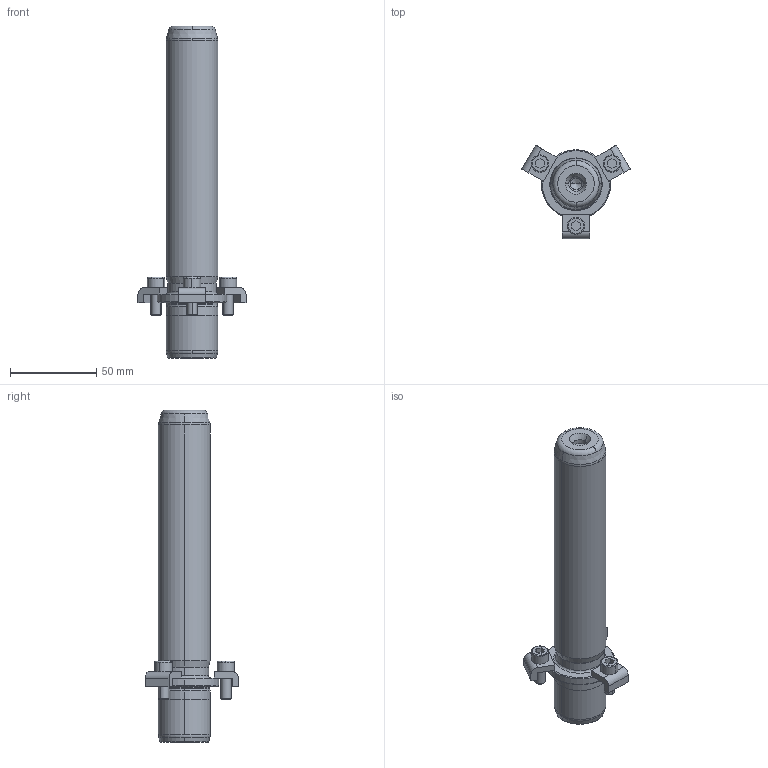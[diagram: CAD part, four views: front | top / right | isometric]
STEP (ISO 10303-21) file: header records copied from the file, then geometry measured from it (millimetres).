
FILE_DESCRIPTION((''),'2;1');
FILE_NAME('P21_030_160.stp','2008-12-23T09:56:20',(''),(''),'Mechanical Desktop 2009','Mechanical Desktop 2009',', , ');
FILE_SCHEMA(('CONFIG_CONTROL_DESIGN'));
Length unit declared in the file: millimetre
Products named in the file (2): Product; blmdl1
Assembly tree (1 placements, depth 2):
  Product
    blmdl1
Bounding box: 62.51 x 54.13 x 192 mm (x, y, z)
Volume: 139724.9 mm3; surface area: 26027.9 mm2
Topology: 7 solids, 7 shells, 163 faces, 399 edges, 257 vertices
Faces by surface type: plane 59, cylinder 44, cone 32, torus 14, bspline 14
Entity records: 5517 total; most frequent: CARTESIAN_POINT 1433, DIRECTION 908, ORIENTED_EDGE 790, EDGE_CURVE 395, AXIS2_PLACEMENT_3D 362, VERTEX_POINT 257, CIRCLE 211, VECTOR 184
